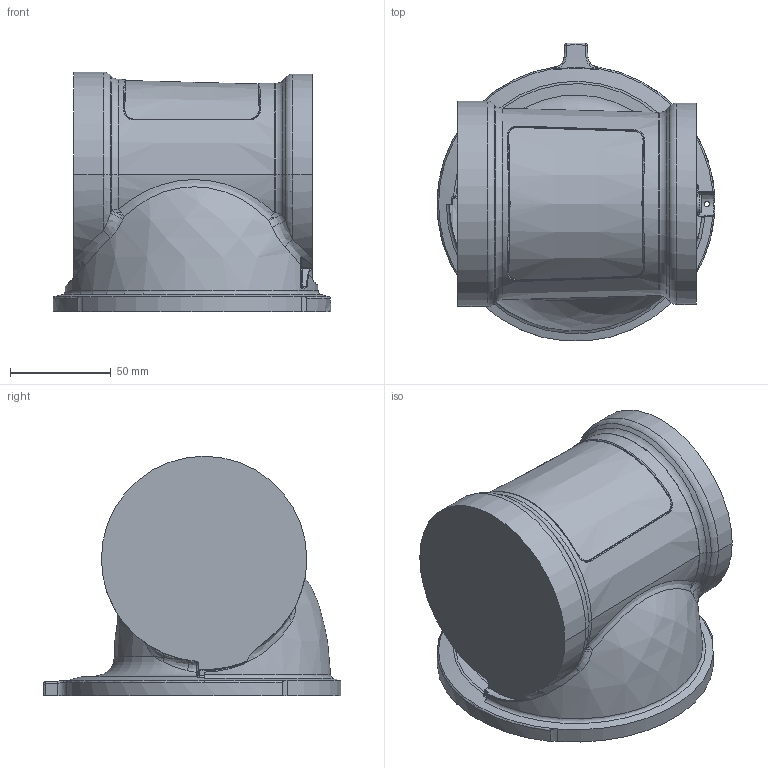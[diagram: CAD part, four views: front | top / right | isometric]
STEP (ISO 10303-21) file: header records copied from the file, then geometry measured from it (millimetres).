
FILE_DESCRIPTION (( 'STEP AP214' ), '1' );
FILE_NAME ('Link1.STEP', '2022-06-24T02:56:10', ( '' ), ( '' ), 'SwSTEP 2.0', 'SolidWorks 2020', '' );
FILE_SCHEMA (( 'AUTOMOTIVE_DESIGN' ));
Length unit declared in the file: millimetre
Products named in the file (1): Link1
Bounding box: 138 x 147.95 x 119 mm (x, y, z)
Volume: 1152357.8 mm3; surface area: 82746 mm2
Topology: 1 solids, 1 shells, 715 faces, 1727 edges, 979 vertices
Faces by surface type: bspline 258, cylinder 114, cone 102, sphere 83, torus 81, plane 77
Entity records: 31775 total; most frequent: CARTESIAN_POINT 17390, ORIENTED_EDGE 3314, DIRECTION 2669, EDGE_CURVE 1657, AXIS2_PLACEMENT_3D 1208, VERTEX_POINT 968, CIRCLE 750, EDGE_LOOP 745
